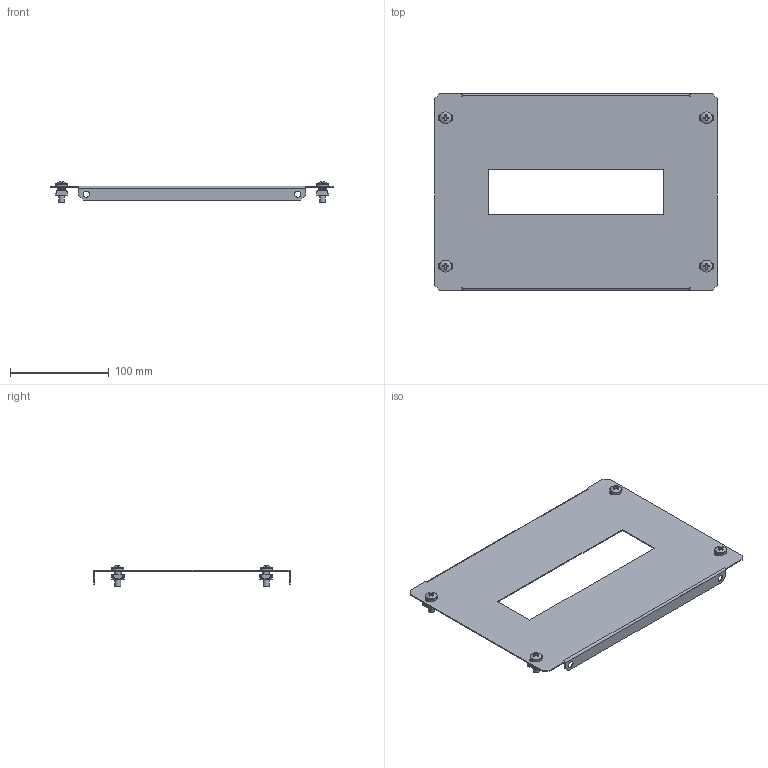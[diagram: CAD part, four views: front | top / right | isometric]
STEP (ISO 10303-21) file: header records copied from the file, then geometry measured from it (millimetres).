
FILE_DESCRIPTION (( 'STEP AP203' ), '1' );
FILE_NAME ('MA1.401.060002.01.00 Ïëàñòðîí ñ âûðåçîì äëÿ ìîäóëüíûõ óñòðîéñòâ Â200 Ø400 ìì EKF AleSta-FPFU2040.STEP', '2024-12-02T12:51:10', ( '' ), ( '' ), 'SwSTEP 2.0', 'SolidWorks 2021', '' );
FILE_SCHEMA (( 'CONFIG_CONTROL_DESIGN' ));
Length unit declared in the file: millimetre
Products named in the file (6): MA1.401.060002.01.01 Ïëàñòðîí ñ âûðåçîì äëÿ ìîäóëüíûõ óñòðîéñòâ Â200 Ø600 ìì EKF AleSta_Copy of ˜=400; Ãàéêà çàêëàäíàÿ; Ãàéêà çàêëàäêàÿ Ì6; pan head cross recess screw_din_DIN EN ISO 7045 - M6 x 16 - Z - 16N; MA1.401.060002.01.00 Ïëàñòðîí ñ âûðåçîì äëÿ ìîäóëüíûõ óñòðîéñòâ Â200 Ø400 ìì EKF AleSta-FPFU2040; Îáîëî÷êà ãàéêè çàêëàäíîé
Assembly tree (11 placements, depth 3):
  MA1.401.060002.01.00 Ïëàñòðîí ñ âûðåçîì äëÿ ìîäóëüíûõ óñòðîéñòâ Â200 Ø400 ìì EKF AleSta-FPFU2040
    MA1.401.060002.01.01 Ïëàñòðîí ñ âûðåçîì äëÿ ìîäóëüíûõ óñòðîéñòâ Â200 Ø600 ìì EKF AleSta_Copy of ˜=400
    Ãàéêà çàêëàäíàÿ  x4
      Îáîëî÷êà ãàéêè çàêëàäíîé
      Ãàéêà çàêëàäêàÿ Ì6
    pan head cross recess screw_din_DIN EN ISO 7045 - M6 x 16 - Z - 16N  x4
Bounding box: 286 x 199 x 20.48 mm (x, y, z)
Volume: 59139.2 mm3; surface area: 116763.5 mm2
Topology: 13 solids, 13 shells, 694 faces, 1546 edges, 882 vertices
Faces by surface type: plane 446, cylinder 144, bspline 64, cone 28, torus 8, sphere 4
Full cylindrical faces by diameter (mm): 6 x8, 6.5 x4, 7 x4, 12 x4
Entity records: 7540 total; most frequent: CARTESIAN_POINT 1693, DIRECTION 1030, ORIENTED_EDGE 1024, EDGE_CURVE 512, VECTOR 364, LINE 364, AXIS2_PLACEMENT_3D 333, VERTEX_POINT 308
